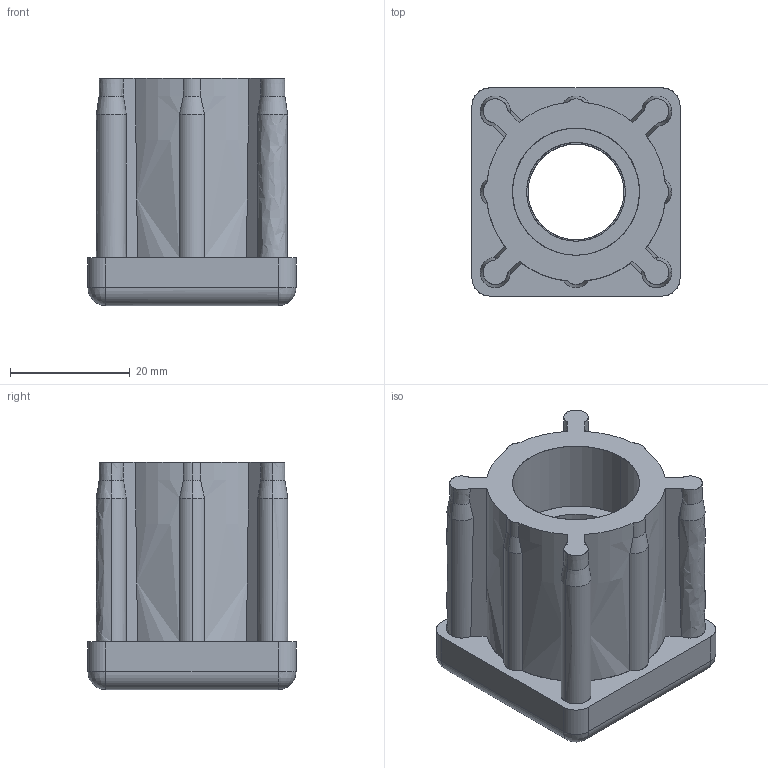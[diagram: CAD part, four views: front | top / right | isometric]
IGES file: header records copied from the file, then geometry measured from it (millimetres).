
Start section: SolidWorks IGES file using analytic representation for surfaces
Global section: file name: Y:\Tecnodin, S.L\Planos Clientes - Documentos\General\PLANOS CLIENTES\3D\-REVISAR-\CONTERAS TECOM\42006835216.IGS; native system: SolidWorks 2018; preprocessor: SolidWorks 2018; author: GerPro; date: 200226.112357; units: millimetre
Bounding box: 34.8 x 34.8 x 38 mm (x, y, z)
Surface area: 11360.3 mm2 (no closed solid volume)
Topology: 0 solids, 0 shells, 117 faces, 1185 edges, 1184 vertices
Faces by surface type: revolution 92, bspline 25
